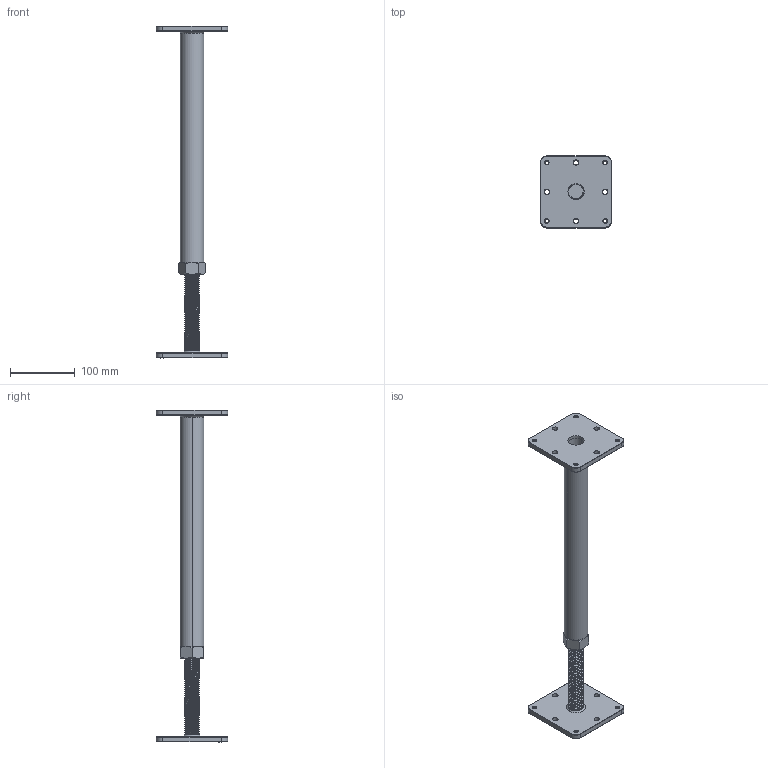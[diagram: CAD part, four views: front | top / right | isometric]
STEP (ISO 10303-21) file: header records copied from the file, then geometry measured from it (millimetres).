
FILE_DESCRIPTION (( 'STEP AP214' ), '1' );
FILE_NAME ('foot.STEP', '2026-09-02T16:36:51', ( '' ), ( '' ), 'SwSTEP 2.0', 'SolidWorks 2026', '' );
FILE_SCHEMA (( 'AUTOMOTIVE_DESIGN' ));
Length unit declared in the file: millimetre
Products named in the file (1): foot
Bounding box: 110 x 110.05 x 511.47 mm (x, y, z)
Volume: 475518.1 mm3; surface area: 162300.1 mm2
Topology: 7 solids, 7 shells, 515 faces, 1400 edges, 906 vertices
Faces by surface type: cylinder 365, plane 71, bspline 47, torus 24, cone 8
Entity records: 36958 total; most frequent: CARTESIAN_POINT 25814, ORIENTED_EDGE 2800, DIRECTION 1833, EDGE_CURVE 1400, VERTEX_POINT 906, AXIS2_PLACEMENT_3D 656, EDGE_LOOP 566, LINE 521
